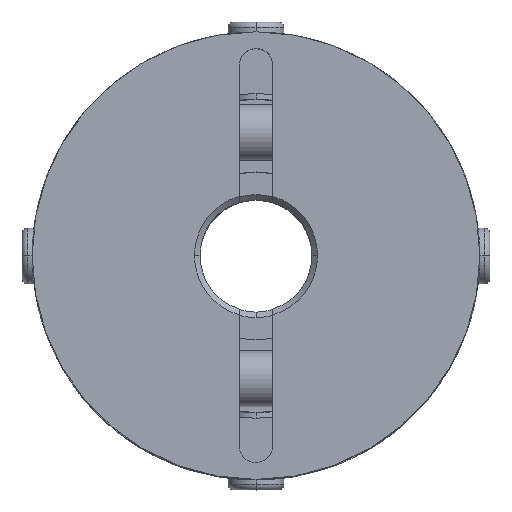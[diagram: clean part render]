
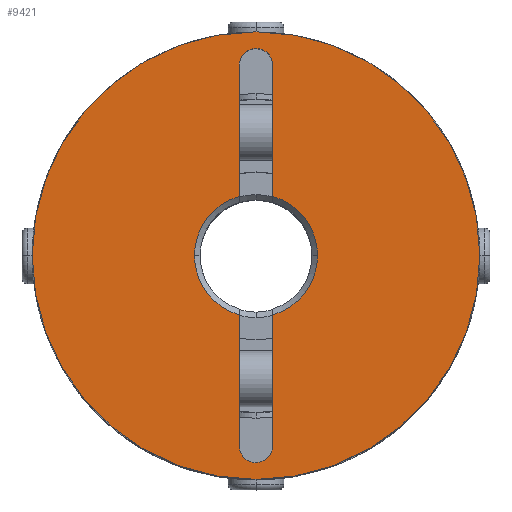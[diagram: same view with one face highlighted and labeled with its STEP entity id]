
A CAD part, top view. The second image highlights one B-rep face of the part: STEP entity #9421.
In plain terms, the highlighted planar face has unit normal (0, 0, 1).
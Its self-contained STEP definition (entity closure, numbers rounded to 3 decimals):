
#993=CARTESIAN_POINT('',(-20.0,0.,20.0));
#994=VERTEX_POINT('',#993);
#1001=CARTESIAN_POINT('',(20.0,0.0,20.0));
#1002=VERTEX_POINT('',#1001);
#1003=CARTESIAN_POINT('',(0.0,0.0,20.0));
#1004=DIRECTION('',(0.0,0.0,-1.0));
#1005=DIRECTION('',(1.0,0.0,0.0));
#1006=AXIS2_PLACEMENT_3D('',#1003,#1004,#1005);
#1007=CIRCLE('',#1006,20.0);
#1008=EDGE_CURVE('',#994,#1002,#1007,.T.);
#1319=CARTESIAN_POINT('',(-1.061,18.061,20.0));
#1320=VERTEX_POINT('',#1319);
#1336=CARTESIAN_POINT('',(1.5,17.,20.0));
#1337=VERTEX_POINT('',#1336);
#1344=CARTESIAN_POINT('',(0.,17.,20.0));
#1345=DIRECTION('',(0.0,0.0,1.));
#1346=DIRECTION('',(0.707,0.707,0.0));
#1347=AXIS2_PLACEMENT_3D('',#1344,#1345,#1346);
#1348=CIRCLE('',#1347,1.5);
#1349=EDGE_CURVE('',#1337,#1320,#1348,.T.);
#1361=CARTESIAN_POINT('',(1.061,-18.061,20.0));
#1362=VERTEX_POINT('',#1361);
#1378=CARTESIAN_POINT('',(-1.5,-17.,20.0));
#1379=VERTEX_POINT('',#1378);
#1386=CARTESIAN_POINT('',(0.0,-17.,20.0));
#1387=DIRECTION('',(0.0,0.0,1.0));
#1388=DIRECTION('',(-0.707,-0.707,0.0));
#1389=AXIS2_PLACEMENT_3D('',#1386,#1387,#1388);
#1390=CIRCLE('',#1389,1.5);
#1391=EDGE_CURVE('',#1379,#1362,#1390,.T.);
#1401=CARTESIAN_POINT('',(-5.5,0.,20.0));
#1402=VERTEX_POINT('',#1401);
#1409=CARTESIAN_POINT('',(-1.5,-5.292,20.0));
#1410=VERTEX_POINT('',#1409);
#1411=CARTESIAN_POINT('',(0.0,0.0,20.0));
#1412=DIRECTION('',(0.0,0.0,1.0));
#1413=DIRECTION('',(-1.0,0.0,0.0));
#1414=AXIS2_PLACEMENT_3D('',#1411,#1412,#1413);
#1415=CIRCLE('',#1414,5.5);
#1416=EDGE_CURVE('',#1402,#1410,#1415,.T.);
#1440=CARTESIAN_POINT('',(5.5,0.,20.0));
#1441=VERTEX_POINT('',#1440);
#1448=CARTESIAN_POINT('',(1.5,5.292,20.0));
#1449=VERTEX_POINT('',#1448);
#1450=CARTESIAN_POINT('',(0.0,0.0,20.0));
#1451=DIRECTION('',(0.0,0.0,1.0));
#1452=DIRECTION('',(1.0,0.0,0.0));
#1453=AXIS2_PLACEMENT_3D('',#1450,#1451,#1452);
#1454=CIRCLE('',#1453,5.5);
#1455=EDGE_CURVE('',#1441,#1449,#1454,.T.);
#9226=CARTESIAN_POINT('',(-1.5,17.,20.0));
#9227=VERTEX_POINT('',#9226);
#9234=CARTESIAN_POINT('',(-1.5,5.292,20.0));
#9235=VERTEX_POINT('',#9234);
#9236=CARTESIAN_POINT('',(-1.5,5.292,20.0));
#9237=DIRECTION('',(0.0,1.0,0.0));
#9238=VECTOR('',#9237,11.708);
#9239=LINE('',#9236,#9238);
#9240=EDGE_CURVE('',#9235,#9227,#9239,.T.);
#9315=CARTESIAN_POINT('',(1.5,17.,20.0));
#9316=DIRECTION('',(0.0,-1.0,0.0));
#9317=VECTOR('',#9316,11.708);
#9318=LINE('',#9315,#9317);
#9319=EDGE_CURVE('',#1337,#1449,#9318,.T.);
#9337=CARTESIAN_POINT('',(1.5,-5.292,20.0));
#9338=VERTEX_POINT('',#9337);
#9352=CARTESIAN_POINT('',(0.0,0.0,20.0));
#9353=DIRECTION('',(0.0,0.0,1.0));
#9354=DIRECTION('',(1.0,0.0,0.0));
#9355=AXIS2_PLACEMENT_3D('',#9352,#9353,#9354);
#9356=CIRCLE('',#9355,5.5);
#9357=EDGE_CURVE('',#9338,#1441,#9356,.T.);
#9362=CARTESIAN_POINT('',(1.818,0.,20.0));
#9363=DIRECTION('',(0.0,0.0,1.0));
#9364=DIRECTION('',(1.0,0.0,0.0));
#9365=AXIS2_PLACEMENT_3D('',#9362,#9363,#9364);
#9366=PLANE('',#9365);
#9367=CARTESIAN_POINT('',(0.0,0.0,20.0));
#9368=DIRECTION('',(0.0,0.0,-1.0));
#9369=DIRECTION('',(1.0,0.0,0.0));
#9370=AXIS2_PLACEMENT_3D('',#9367,#9368,#9369);
#9371=CIRCLE('',#9370,20.0);
#9372=EDGE_CURVE('',#1002,#994,#9371,.T.);
#9373=ORIENTED_EDGE('',*,*,#9372,.F.);
#9374=ORIENTED_EDGE('',*,*,#1008,.F.);
#9375=EDGE_LOOP('',(#9373,#9374));
#9376=FACE_OUTER_BOUND('',#9375,.T.);
#9377=ORIENTED_EDGE('',*,*,#9357,.F.);
#9378=CARTESIAN_POINT('',(1.5,-17.,20.0));
#9379=VERTEX_POINT('',#9378);
#9380=CARTESIAN_POINT('',(1.5,-5.292,20.0));
#9381=DIRECTION('',(0.0,-1.0,0.0));
#9382=VECTOR('',#9381,11.708);
#9383=LINE('',#9380,#9382);
#9384=EDGE_CURVE('',#9338,#9379,#9383,.T.);
#9385=ORIENTED_EDGE('',*,*,#9384,.T.);
#9386=CARTESIAN_POINT('',(0.0,-17.,20.0));
#9387=DIRECTION('',(0.0,0.0,1.0));
#9388=DIRECTION('',(-0.707,-0.707,0.0));
#9389=AXIS2_PLACEMENT_3D('',#9386,#9387,#9388);
#9390=CIRCLE('',#9389,1.5);
#9391=EDGE_CURVE('',#1362,#9379,#9390,.T.);
#9392=ORIENTED_EDGE('',*,*,#9391,.F.);
#9393=ORIENTED_EDGE('',*,*,#1391,.F.);
#9394=CARTESIAN_POINT('',(-1.5,-17.,20.0));
#9395=DIRECTION('',(0.0,1.0,0.0));
#9396=VECTOR('',#9395,11.708);
#9397=LINE('',#9394,#9396);
#9398=EDGE_CURVE('',#1379,#1410,#9397,.T.);
#9399=ORIENTED_EDGE('',*,*,#9398,.T.);
#9400=ORIENTED_EDGE('',*,*,#1416,.F.);
#9401=CARTESIAN_POINT('',(0.0,0.0,20.0));
#9402=DIRECTION('',(0.0,0.0,1.0));
#9403=DIRECTION('',(-1.0,0.0,0.0));
#9404=AXIS2_PLACEMENT_3D('',#9401,#9402,#9403);
#9405=CIRCLE('',#9404,5.5);
#9406=EDGE_CURVE('',#9235,#1402,#9405,.T.);
#9407=ORIENTED_EDGE('',*,*,#9406,.F.);
#9408=ORIENTED_EDGE('',*,*,#9240,.T.);
#9409=CARTESIAN_POINT('',(0.,17.,20.0));
#9410=DIRECTION('',(0.0,0.0,1.));
#9411=DIRECTION('',(0.707,0.707,0.0));
#9412=AXIS2_PLACEMENT_3D('',#9409,#9410,#9411);
#9413=CIRCLE('',#9412,1.5);
#9414=EDGE_CURVE('',#1320,#9227,#9413,.T.);
#9415=ORIENTED_EDGE('',*,*,#9414,.F.);
#9416=ORIENTED_EDGE('',*,*,#1349,.F.);
#9417=ORIENTED_EDGE('',*,*,#9319,.T.);
#9418=ORIENTED_EDGE('',*,*,#1455,.F.);
#9419=EDGE_LOOP('',(#9377,#9385,#9392,#9393,#9399,#9400,#9407,#9408,#9415,#9416,#9417,#9418));
#9420=FACE_BOUND('',#9419,.T.);
#9421=ADVANCED_FACE('',(#9376,#9420),#9366,.T.);
